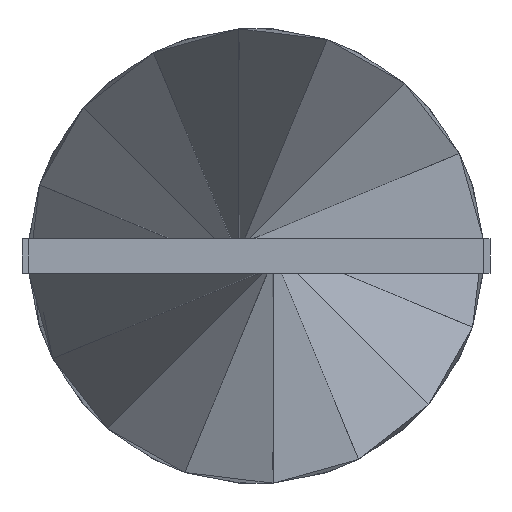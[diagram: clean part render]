
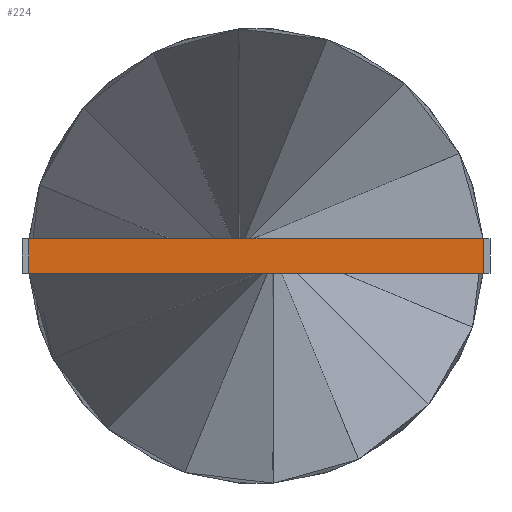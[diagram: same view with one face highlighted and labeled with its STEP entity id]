
A CAD part, left-side view. The second image highlights one B-rep face of the part: STEP entity #224.
In plain terms, the highlighted planar face has unit normal (-1, 0, 0).
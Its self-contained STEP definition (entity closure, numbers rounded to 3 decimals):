
#224 = ADVANCED_FACE( '', ( #560 ), #561, .F. );
#560 = FACE_OUTER_BOUND( '', #1173, .T. );
#561 = PLANE( '', #1174 );
#1173 = EDGE_LOOP( '', ( #2411, #2412, #2413, #2414 ) );
#1174 = AXIS2_PLACEMENT_3D( '', #2415, #2416, #2417 );
#2411 = ORIENTED_EDGE( '', *, *, #3185, .F. );
#2412 = ORIENTED_EDGE( '', *, *, #3193, .F. );
#2413 = ORIENTED_EDGE( '', *, *, #3194, .F. );
#2414 = ORIENTED_EDGE( '', *, *, #3195, .F. );
#2415 = CARTESIAN_POINT( '', ( -270., 0., 0. ) );
#2416 = DIRECTION( '', ( 1., 0., 0. ) );
#2417 = DIRECTION( '', ( 0., 0., -1. ) );
#3185 = EDGE_CURVE( '', #3717, #3719, #3720, .T. );
#3193 = EDGE_CURVE( '', #3731, #3717, #3732, .T. );
#3194 = EDGE_CURVE( '', #3733, #3731, #3734, .T. );
#3195 = EDGE_CURVE( '', #3719, #3733, #3735, .T. );
#3717 = VERTEX_POINT( '', #4503 );
#3719 = VERTEX_POINT( '', #4506 );
#3720 = LINE( '', #4507, #4508 );
#3731 = VERTEX_POINT( '', #4528 );
#3732 = LINE( '', #4529, #4530 );
#3733 = VERTEX_POINT( '', #4531 );
#3734 = LINE( '', #4532, #4533 );
#3735 = LINE( '', #4534, #4535 );
#4503 = CARTESIAN_POINT( '', ( -270., 10., 0.75 ) );
#4506 = CARTESIAN_POINT( '', ( -270., -10., 0.75 ) );
#4507 = CARTESIAN_POINT( '', ( -270., 10., 0.75 ) );
#4508 = VECTOR( '', #5279, 1000. );
#4528 = CARTESIAN_POINT( '', ( -270., 10., -0.75 ) );
#4529 = CARTESIAN_POINT( '', ( -270., 10., -0.75 ) );
#4530 = VECTOR( '', #5281, 1000. );
#4531 = CARTESIAN_POINT( '', ( -270., -10., -0.75 ) );
#4532 = CARTESIAN_POINT( '', ( -270., -10., -0.75 ) );
#4533 = VECTOR( '', #5282, 1000. );
#4534 = CARTESIAN_POINT( '', ( -270., -10., 0.75 ) );
#4535 = VECTOR( '', #5283, 1000. );
#5279 = DIRECTION( '', ( 0., -1., 0. ) );
#5281 = DIRECTION( '', ( 0., 0., 1. ) );
#5282 = DIRECTION( '', ( 0., 1., 0. ) );
#5283 = DIRECTION( '', ( 0., 0., -1. ) );
